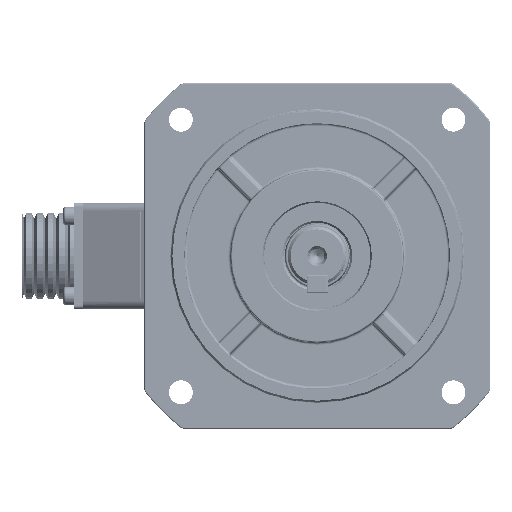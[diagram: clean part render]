
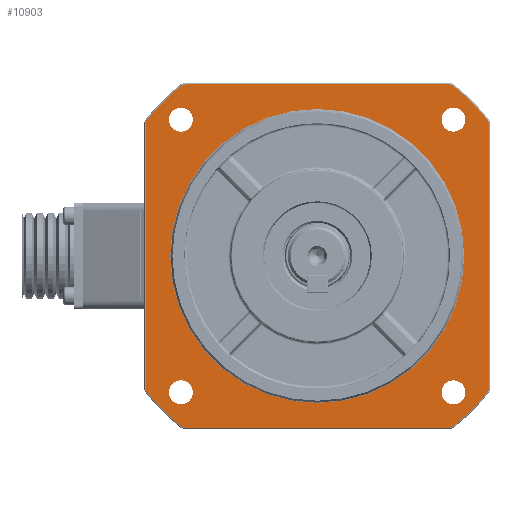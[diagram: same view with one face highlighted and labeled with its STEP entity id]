
A CAD part, left-side view. The second image highlights one B-rep face of the part: STEP entity #10903.
In plain terms, the highlighted planar face has unit normal (-1, 0, 0).
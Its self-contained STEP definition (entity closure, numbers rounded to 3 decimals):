
#1595=CARTESIAN_POINT('',(7.,51.265,-51.265));
#1596=DIRECTION('',(-1.,0.,0.));
#1597=DIRECTION('',(0.,0.,1.));
#1598=AXIS2_PLACEMENT_3D('',#1595,#1596,#1597);
#1600=CARTESIAN_POINT('',(7.,51.265,-51.265));
#1601=DIRECTION('',(-1.,0.,0.));
#1602=DIRECTION('',(0.,0.,-1.));
#1603=AXIS2_PLACEMENT_3D('',#1600,#1601,#1602);
#1605=CARTESIAN_POINT('',(7.,51.265,51.265));
#1606=DIRECTION('',(-1.,0.,0.));
#1607=DIRECTION('',(0.,-1.,0.));
#1608=AXIS2_PLACEMENT_3D('',#1605,#1606,#1607);
#1610=CARTESIAN_POINT('',(7.,51.265,51.265));
#1611=DIRECTION('',(-1.,0.,0.));
#1612=DIRECTION('',(0.,1.,0.));
#1613=AXIS2_PLACEMENT_3D('',#1610,#1611,#1612);
#1615=CARTESIAN_POINT('',(7.,-51.265,51.265));
#1616=DIRECTION('',(-1.,0.,0.));
#1617=DIRECTION('',(0.,0.,-1.));
#1618=AXIS2_PLACEMENT_3D('',#1615,#1616,#1617);
#1620=CARTESIAN_POINT('',(7.,-51.265,51.265));
#1621=DIRECTION('',(-1.,0.,0.));
#1622=DIRECTION('',(0.,0.,1.));
#1623=AXIS2_PLACEMENT_3D('',#1620,#1621,#1622);
#1625=CARTESIAN_POINT('',(7.,-51.265,-51.265));
#1626=DIRECTION('',(-1.,0.,0.));
#1627=DIRECTION('',(0.,1.,0.));
#1628=AXIS2_PLACEMENT_3D('',#1625,#1626,#1627);
#1630=CARTESIAN_POINT('',(7.,-51.265,-51.265));
#1631=DIRECTION('',(-1.,0.,0.));
#1632=DIRECTION('',(0.,-1.,0.));
#1633=AXIS2_PLACEMENT_3D('',#1630,#1631,#1632);
#1635=CARTESIAN_POINT('',(7.,0.,0.));
#1636=DIRECTION('',(-1.,0.,0.));
#1637=DIRECTION('',(0.,1.,0.));
#1638=AXIS2_PLACEMENT_3D('',#1635,#1636,#1637);
#1640=CARTESIAN_POINT('',(7.,0.,0.));
#1641=DIRECTION('',(-1.,0.,0.));
#1642=DIRECTION('',(0.,-1.,0.));
#1643=AXIS2_PLACEMENT_3D('',#1640,#1641,#1642);
#1645=CARTESIAN_POINT('',(7.,-49.762,62.));
#1646=DIRECTION('',(-1.,0.,0.));
#1647=DIRECTION('',(0.,-0.626,0.78));
#1648=AXIS2_PLACEMENT_3D('',#1645,#1646,#1647);
#1650=CARTESIAN_POINT('',(7.,0.,0.));
#1651=DIRECTION('',(-1.,0.,0.));
#1652=DIRECTION('',(0.,-0.78,0.626));
#1653=AXIS2_PLACEMENT_3D('',#1650,#1651,#1652);
#1655=CARTESIAN_POINT('',(7.,-62.,49.762));
#1656=DIRECTION('',(-1.,0.,0.));
#1657=DIRECTION('',(0.,-1.,0.));
#1658=AXIS2_PLACEMENT_3D('',#1655,#1656,#1657);
#1660=DIRECTION('',(0.,0.,1.));
#1661=VECTOR('',#1660,99.524);
#1662=CARTESIAN_POINT('',(7.,-64.5,-49.762));
#1663=LINE('',#1662,#1661);
#1664=CARTESIAN_POINT('',(7.,-62.,-49.762));
#1665=DIRECTION('',(-1.,0.,0.));
#1666=DIRECTION('',(0.,-0.78,-0.626));
#1667=AXIS2_PLACEMENT_3D('',#1664,#1665,#1666);
#1669=CARTESIAN_POINT('',(7.,0.,0.));
#1670=DIRECTION('',(-1.,0.,0.));
#1671=DIRECTION('',(0.,-0.626,-0.78));
#1672=AXIS2_PLACEMENT_3D('',#1669,#1670,#1671);
#1674=CARTESIAN_POINT('',(7.,-49.762,-62.));
#1675=DIRECTION('',(-1.,0.,0.));
#1676=DIRECTION('',(0.,0.,-1.));
#1677=AXIS2_PLACEMENT_3D('',#1674,#1675,#1676);
#1679=DIRECTION('',(0.,-1.,0.));
#1680=VECTOR('',#1679,99.524);
#1681=CARTESIAN_POINT('',(7.,49.762,-64.5));
#1682=LINE('',#1681,#1680);
#1683=CARTESIAN_POINT('',(7.,49.762,-62.));
#1684=DIRECTION('',(-1.,0.,0.));
#1685=DIRECTION('',(0.,0.626,-0.78));
#1686=AXIS2_PLACEMENT_3D('',#1683,#1684,#1685);
#1688=CARTESIAN_POINT('',(7.,0.,0.));
#1689=DIRECTION('',(-1.,0.,0.));
#1690=DIRECTION('',(0.,0.78,-0.626));
#1691=AXIS2_PLACEMENT_3D('',#1688,#1689,#1690);
#1693=CARTESIAN_POINT('',(7.,62.,-49.762));
#1694=DIRECTION('',(-1.,0.,0.));
#1695=DIRECTION('',(0.,1.,0.));
#1696=AXIS2_PLACEMENT_3D('',#1693,#1694,#1695);
#1698=DIRECTION('',(0.,0.,-1.));
#1699=VECTOR('',#1698,99.524);
#1700=CARTESIAN_POINT('',(7.,64.5,49.762));
#1701=LINE('',#1700,#1699);
#1702=CARTESIAN_POINT('',(7.,62.,49.762));
#1703=DIRECTION('',(-1.,0.,0.));
#1704=DIRECTION('',(0.,0.78,0.626));
#1705=AXIS2_PLACEMENT_3D('',#1702,#1703,#1704);
#1707=CARTESIAN_POINT('',(7.,0.,0.));
#1708=DIRECTION('',(-1.,0.,0.));
#1709=DIRECTION('',(0.,0.626,0.78));
#1710=AXIS2_PLACEMENT_3D('',#1707,#1708,#1709);
#1712=CARTESIAN_POINT('',(7.,49.762,62.));
#1713=DIRECTION('',(-1.,0.,0.));
#1714=DIRECTION('',(0.,0.,1.));
#1715=AXIS2_PLACEMENT_3D('',#1712,#1713,#1714);
#1717=DIRECTION('',(0.,1.,0.));
#1718=VECTOR('',#1717,99.524);
#1719=CARTESIAN_POINT('',(7.,-49.762,64.5));
#1720=LINE('',#1719,#1718);
#7233=CARTESIAN_POINT('',(7.,51.265,-46.765));
#7234=CARTESIAN_POINT('',(7.,51.265,-55.765));
#7235=VERTEX_POINT('',#7233);
#7236=VERTEX_POINT('',#7234);
#7241=CARTESIAN_POINT('',(7.,46.765,51.265));
#7242=CARTESIAN_POINT('',(7.,55.765,51.265));
#7243=VERTEX_POINT('',#7241);
#7244=VERTEX_POINT('',#7242);
#7249=CARTESIAN_POINT('',(7.,-51.265,46.765));
#7250=CARTESIAN_POINT('',(7.,-51.265,55.765));
#7251=VERTEX_POINT('',#7249);
#7252=VERTEX_POINT('',#7250);
#7257=CARTESIAN_POINT('',(7.,-46.765,-51.265));
#7258=CARTESIAN_POINT('',(7.,-55.765,-51.265));
#7259=VERTEX_POINT('',#7257);
#7260=VERTEX_POINT('',#7258);
#7377=CARTESIAN_POINT('',(7.,55.3,0.));
#7378=CARTESIAN_POINT('',(7.,-55.3,0.));
#7379=VERTEX_POINT('',#7377);
#7380=VERTEX_POINT('',#7378);
#7899=CARTESIAN_POINT('',(7.,-51.327,63.95));
#7900=CARTESIAN_POINT('',(7.,-49.762,64.5));
#7901=VERTEX_POINT('',#7899);
#7902=VERTEX_POINT('',#7900);
#7907=CARTESIAN_POINT('',(7.,49.762,64.5));
#7908=VERTEX_POINT('',#7907);
#7911=CARTESIAN_POINT('',(7.,51.327,63.95));
#7912=VERTEX_POINT('',#7911);
#7915=CARTESIAN_POINT('',(7.,63.95,51.327));
#7916=VERTEX_POINT('',#7915);
#7919=CARTESIAN_POINT('',(7.,64.5,49.762));
#7920=VERTEX_POINT('',#7919);
#7923=CARTESIAN_POINT('',(7.,64.5,-49.762));
#7924=VERTEX_POINT('',#7923);
#7927=CARTESIAN_POINT('',(7.,63.95,-51.327));
#7928=VERTEX_POINT('',#7927);
#7931=CARTESIAN_POINT('',(7.,51.327,-63.95));
#7932=VERTEX_POINT('',#7931);
#7935=CARTESIAN_POINT('',(7.,49.762,-64.5));
#7936=VERTEX_POINT('',#7935);
#7939=CARTESIAN_POINT('',(7.,-49.762,-64.5));
#7940=VERTEX_POINT('',#7939);
#7943=CARTESIAN_POINT('',(7.,-51.327,-63.95));
#7944=VERTEX_POINT('',#7943);
#7947=CARTESIAN_POINT('',(7.,-63.95,-51.327));
#7948=VERTEX_POINT('',#7947);
#7951=CARTESIAN_POINT('',(7.,-64.5,-49.762));
#7952=VERTEX_POINT('',#7951);
#7955=CARTESIAN_POINT('',(7.,-64.5,49.762));
#7956=VERTEX_POINT('',#7955);
#7959=CARTESIAN_POINT('',(7.,-63.95,51.327));
#7960=VERTEX_POINT('',#7959);
#10836=CARTESIAN_POINT('',(7.,0.,0.));
#10837=DIRECTION('',(-1.,0.,0.));
#10838=DIRECTION('',(0.,1.,0.));
#10839=AXIS2_PLACEMENT_3D('',#10836,#10837,#10838);
#10840=PLANE('',#10839);
#10842=ORIENTED_EDGE('',*,*,#10841,.F.);
#10844=ORIENTED_EDGE('',*,*,#10843,.F.);
#10846=ORIENTED_EDGE('',*,*,#10845,.F.);
#10848=ORIENTED_EDGE('',*,*,#10847,.F.);
#10850=ORIENTED_EDGE('',*,*,#10849,.F.);
#10852=ORIENTED_EDGE('',*,*,#10851,.F.);
#10854=ORIENTED_EDGE('',*,*,#10853,.F.);
#10856=ORIENTED_EDGE('',*,*,#10855,.F.);
#10858=ORIENTED_EDGE('',*,*,#10857,.F.);
#10860=ORIENTED_EDGE('',*,*,#10859,.F.);
#10862=ORIENTED_EDGE('',*,*,#10861,.F.);
#10864=ORIENTED_EDGE('',*,*,#10863,.F.);
#10866=ORIENTED_EDGE('',*,*,#10865,.F.);
#10868=ORIENTED_EDGE('',*,*,#10867,.F.);
#10870=ORIENTED_EDGE('',*,*,#10869,.F.);
#10872=ORIENTED_EDGE('',*,*,#10871,.F.);
#10873=EDGE_LOOP('',(#10842,#10844,#10846,#10848,#10850,#10852,#10854,#10856,
#10858,#10860,#10862,#10864,#10866,#10868,#10870,#10872));
#10874=FACE_OUTER_BOUND('',#10873,.F.);
#10875=ORIENTED_EDGE('',*,*,#10816,.T.);
#10876=ORIENTED_EDGE('',*,*,#10830,.T.);
#10877=EDGE_LOOP('',(#10875,#10876));
#10878=FACE_BOUND('',#10877,.F.);
#10880=ORIENTED_EDGE('',*,*,#10879,.T.);
#10882=ORIENTED_EDGE('',*,*,#10881,.T.);
#10883=EDGE_LOOP('',(#10880,#10882));
#10884=FACE_BOUND('',#10883,.F.);
#10886=ORIENTED_EDGE('',*,*,#10885,.T.);
#10888=ORIENTED_EDGE('',*,*,#10887,.T.);
#10889=EDGE_LOOP('',(#10886,#10888));
#10890=FACE_BOUND('',#10889,.F.);
#10892=ORIENTED_EDGE('',*,*,#10891,.T.);
#10894=ORIENTED_EDGE('',*,*,#10893,.T.);
#10895=EDGE_LOOP('',(#10892,#10894));
#10896=FACE_BOUND('',#10895,.F.);
#10898=ORIENTED_EDGE('',*,*,#10897,.T.);
#10900=ORIENTED_EDGE('',*,*,#10899,.T.);
#10901=EDGE_LOOP('',(#10898,#10900));
#10902=FACE_BOUND('',#10901,.F.);
#10903=ADVANCED_FACE('',(#10874,#10878,#10884,#10890,#10896,#10902),#10840,.T.);
#1599=CIRCLE('',#1598,4.5);
#1604=CIRCLE('',#1603,4.5);
#1609=CIRCLE('',#1608,4.5);
#1614=CIRCLE('',#1613,4.5);
#1619=CIRCLE('',#1618,4.5);
#1624=CIRCLE('',#1623,4.5);
#1629=CIRCLE('',#1628,4.5);
#1634=CIRCLE('',#1633,4.5);
#1639=CIRCLE('',#1638,55.3);
#1644=CIRCLE('',#1643,55.3);
#1649=CIRCLE('',#1648,2.5);
#1654=CIRCLE('',#1653,82.);
#1659=CIRCLE('',#1658,2.5);
#1668=CIRCLE('',#1667,2.5);
#1673=CIRCLE('',#1672,82.);
#1678=CIRCLE('',#1677,2.5);
#1687=CIRCLE('',#1686,2.5);
#1692=CIRCLE('',#1691,82.);
#1697=CIRCLE('',#1696,2.5);
#1706=CIRCLE('',#1705,2.5);
#1711=CIRCLE('',#1710,82.);
#1716=CIRCLE('',#1715,2.5);
#10816=EDGE_CURVE('',#7243,#7244,#1609,.T.);
#10830=EDGE_CURVE('',#7244,#7243,#1614,.T.);
#10841=EDGE_CURVE('',#7901,#7902,#1649,.T.);
#10843=EDGE_CURVE('',#7960,#7901,#1654,.T.);
#10845=EDGE_CURVE('',#7956,#7960,#1659,.T.);
#10847=EDGE_CURVE('',#7952,#7956,#1663,.T.);
#10849=EDGE_CURVE('',#7948,#7952,#1668,.T.);
#10851=EDGE_CURVE('',#7944,#7948,#1673,.T.);
#10853=EDGE_CURVE('',#7940,#7944,#1678,.T.);
#10855=EDGE_CURVE('',#7936,#7940,#1682,.T.);
#10857=EDGE_CURVE('',#7932,#7936,#1687,.T.);
#10859=EDGE_CURVE('',#7928,#7932,#1692,.T.);
#10861=EDGE_CURVE('',#7924,#7928,#1697,.T.);
#10863=EDGE_CURVE('',#7920,#7924,#1701,.T.);
#10865=EDGE_CURVE('',#7916,#7920,#1706,.T.);
#10867=EDGE_CURVE('',#7912,#7916,#1711,.T.);
#10869=EDGE_CURVE('',#7908,#7912,#1716,.T.);
#10871=EDGE_CURVE('',#7902,#7908,#1720,.T.);
#10879=EDGE_CURVE('',#7251,#7252,#1619,.T.);
#10881=EDGE_CURVE('',#7252,#7251,#1624,.T.);
#10885=EDGE_CURVE('',#7259,#7260,#1629,.T.);
#10887=EDGE_CURVE('',#7260,#7259,#1634,.T.);
#10891=EDGE_CURVE('',#7379,#7380,#1639,.T.);
#10893=EDGE_CURVE('',#7380,#7379,#1644,.T.);
#10897=EDGE_CURVE('',#7235,#7236,#1599,.T.);
#10899=EDGE_CURVE('',#7236,#7235,#1604,.T.);
